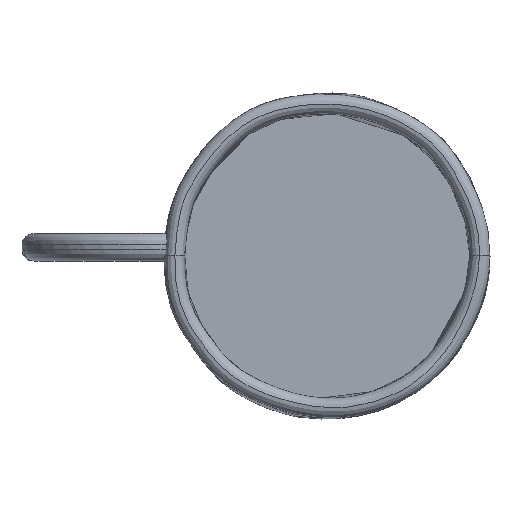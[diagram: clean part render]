
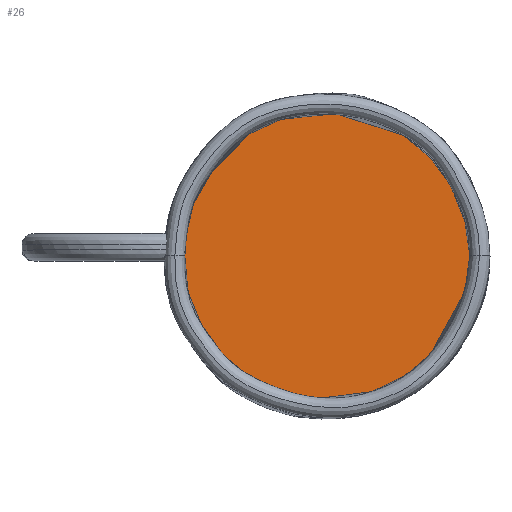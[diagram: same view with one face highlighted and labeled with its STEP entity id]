
A CAD part, top view. The second image highlights one B-rep face of the part: STEP entity #26.
In plain terms, the highlighted free-form (B-spline) face has degree [1, 1] with [2, 2] control points.
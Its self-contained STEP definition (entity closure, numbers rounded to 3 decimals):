
#26=ADVANCED_FACE('',(#53),#745,.T.);
#53=FACE_OUTER_BOUND('',#80,.T.);
#80=EDGE_LOOP('',(#119,#120));
#119=ORIENTED_EDGE('',*,*,#620,.T.);
#120=ORIENTED_EDGE('',*,*,#619,.F.);
#228=PCURVE('',#759,#338);
#229=PCURVE('',#745,#339);
#230=PCURVE('',#745,#340);
#233=PCURVE('',#760,#343);
#338=DEFINITIONAL_REPRESENTATION('',(#444),#10800);
#339=DEFINITIONAL_REPRESENTATION('',(#680),#10800);
#340=DEFINITIONAL_REPRESENTATION('',(#681),#10800);
#343=DEFINITIONAL_REPRESENTATION('',(#445),#10800);
#444=B_SPLINE_CURVE_WITH_KNOTS('',1,(#1008,#1009),.UNSPECIFIED.,.F.,.F.,
(2,2),(0.,94.799),.UNSPECIFIED.);
#445=B_SPLINE_CURVE_WITH_KNOTS('',1,(#1040,#1041),.UNSPECIFIED.,.F.,.F.,
(2,2),(-189.598,-94.799),.UNSPECIFIED.);
#564=SURFACE_CURVE('',#678,(#228,#230),.PCURVE_S1.);
#565=SURFACE_CURVE('',#679,(#229,#233),.PCURVE_S1.);
#619=EDGE_CURVE('',#712,#714,#564,.T.);
#620=EDGE_CURVE('',#712,#714,#565,.T.);
#678=(
BOUNDED_CURVE()
B_SPLINE_CURVE(2,(#1003,#1004,#1005,#1006,#1007),.UNSPECIFIED.,.F.,.F.)
B_SPLINE_CURVE_WITH_KNOTS((3,2,3),(0.,47.4,94.799),
 .UNSPECIFIED.)
CURVE()
GEOMETRIC_REPRESENTATION_ITEM()
RATIONAL_B_SPLINE_CURVE((1.,0.707,1.,0.707,1.))
REPRESENTATION_ITEM('')
);
#679=(
BOUNDED_CURVE()
B_SPLINE_CURVE(2,(#1010,#1011,#1012,#1013,#1014),.UNSPECIFIED.,.F.,.F.)
B_SPLINE_CURVE_WITH_KNOTS((3,2,3),(-189.598,-142.199,
-94.799),.UNSPECIFIED.)
CURVE()
GEOMETRIC_REPRESENTATION_ITEM()
RATIONAL_B_SPLINE_CURVE((1.,0.707,1.,0.707,1.))
REPRESENTATION_ITEM('')
);
#680=(
BOUNDED_CURVE()
B_SPLINE_CURVE(2,(#1015,#1016,#1017,#1018,#1019),.UNSPECIFIED.,.F.,.F.)
B_SPLINE_CURVE_WITH_KNOTS((3,2,3),(-189.598,-142.199,
-94.799),.UNSPECIFIED.)
CURVE()
GEOMETRIC_REPRESENTATION_ITEM()
RATIONAL_B_SPLINE_CURVE((1.,0.707,1.,0.707,1.))
REPRESENTATION_ITEM('')
);
#681=(
BOUNDED_CURVE()
B_SPLINE_CURVE(2,(#1020,#1021,#1022,#1023,#1024),.UNSPECIFIED.,.F.,.F.)
B_SPLINE_CURVE_WITH_KNOTS((3,2,3),(0.,47.4,94.799),
 .UNSPECIFIED.)
CURVE()
GEOMETRIC_REPRESENTATION_ITEM()
RATIONAL_B_SPLINE_CURVE((1.,0.707,1.,0.707,1.))
REPRESENTATION_ITEM('')
);
#712=VERTEX_POINT('',#984);
#714=VERTEX_POINT('',#986);
#745=B_SPLINE_SURFACE_WITH_KNOTS('',1,1,((#966,#967),(#968,#969)),
 .UNSPECIFIED.,.F.,.F.,.F.,(2,2),(2,2),(-37.719,37.719),
(-37.719,37.719),.UNSPECIFIED.);
#759=(
BOUNDED_SURFACE()
B_SPLINE_SURFACE(2,1,((#956,#957),(#958,#959),(#960,#961),(#962,#963),(#964,
#965)),.UNSPECIFIED.,.F.,.F.,.F.)
B_SPLINE_SURFACE_WITH_KNOTS((3,2,3),(2,2),(0.,47.4,94.799),
(0.,5.204),.UNSPECIFIED.)
GEOMETRIC_REPRESENTATION_ITEM()
RATIONAL_B_SPLINE_SURFACE(((1.,1.),(0.707,0.707),
(1.,1.),(0.707,0.707),(1.,1.)))
REPRESENTATION_ITEM('')
SURFACE()
);
#760=(
BOUNDED_SURFACE()
B_SPLINE_SURFACE(2,1,((#974,#975),(#976,#977),(#978,#979),(#980,#981),(#982,
#983)),.UNSPECIFIED.,.F.,.F.,.F.)
B_SPLINE_SURFACE_WITH_KNOTS((3,2,3),(2,2),(94.799,142.199,
189.598),(0.,5.204),.UNSPECIFIED.)
GEOMETRIC_REPRESENTATION_ITEM()
RATIONAL_B_SPLINE_SURFACE(((1.,1.),(0.707,0.707),
(1.,1.),(0.707,0.707),(1.,1.)))
REPRESENTATION_ITEM('')
SURFACE()
);
#956=CARTESIAN_POINT('',(17947.069,-392.673,9.835));
#957=CARTESIAN_POINT('',(17947.069,-392.673,4.703));
#958=CARTESIAN_POINT('',(17947.069,-353.964,9.835));
#959=CARTESIAN_POINT('',(17947.069,-353.964,4.703));
#960=CARTESIAN_POINT('',(17985.779,-353.964,9.835));
#961=CARTESIAN_POINT('',(17985.779,-353.964,4.703));
#962=CARTESIAN_POINT('',(18024.488,-353.964,9.835));
#963=CARTESIAN_POINT('',(18024.488,-353.964,4.703));
#964=CARTESIAN_POINT('',(18024.488,-392.673,9.835));
#965=CARTESIAN_POINT('',(18024.488,-392.673,4.703));
#966=CARTESIAN_POINT('',(18034.165,-441.059,9.835));
#967=CARTESIAN_POINT('',(17937.392,-441.059,9.835));
#968=CARTESIAN_POINT('',(18034.165,-344.287,9.835));
#969=CARTESIAN_POINT('',(17937.392,-344.287,9.835));
#974=CARTESIAN_POINT('',(18024.488,-392.673,9.835));
#975=CARTESIAN_POINT('',(18024.488,-392.673,4.703));
#976=CARTESIAN_POINT('',(18024.488,-431.382,9.835));
#977=CARTESIAN_POINT('',(18024.488,-431.382,4.703));
#978=CARTESIAN_POINT('',(17985.779,-431.382,9.835));
#979=CARTESIAN_POINT('',(17985.779,-431.382,4.703));
#980=CARTESIAN_POINT('',(17947.069,-431.382,9.835));
#981=CARTESIAN_POINT('',(17947.069,-431.382,4.703));
#982=CARTESIAN_POINT('',(17947.069,-392.673,9.835));
#983=CARTESIAN_POINT('',(17947.069,-392.673,4.703));
#984=CARTESIAN_POINT('',(17947.069,-392.673,9.835));
#986=CARTESIAN_POINT('',(18024.488,-392.673,9.835));
#1003=CARTESIAN_POINT('',(17947.069,-392.673,9.835));
#1004=CARTESIAN_POINT('',(17947.069,-353.964,9.835));
#1005=CARTESIAN_POINT('',(17985.779,-353.964,9.835));
#1006=CARTESIAN_POINT('',(18024.488,-353.964,9.835));
#1007=CARTESIAN_POINT('',(18024.488,-392.673,9.835));
#1008=CARTESIAN_POINT('',(0.,0.));
#1009=CARTESIAN_POINT('',(94.799,0.));
#1010=CARTESIAN_POINT('',(17947.069,-392.673,9.835));
#1011=CARTESIAN_POINT('',(17947.069,-431.382,9.835));
#1012=CARTESIAN_POINT('',(17985.779,-431.382,9.835));
#1013=CARTESIAN_POINT('',(18024.488,-431.382,9.835));
#1014=CARTESIAN_POINT('',(18024.488,-392.673,9.835));
#1015=CARTESIAN_POINT('',(0.,30.176));
#1016=CARTESIAN_POINT('',(-30.176,30.176));
#1017=CARTESIAN_POINT('',(-30.176,0.));
#1018=CARTESIAN_POINT('',(-30.176,-30.176));
#1019=CARTESIAN_POINT('',(0.,-30.176));
#1020=CARTESIAN_POINT('',(0.,30.176));
#1021=CARTESIAN_POINT('',(30.176,30.176));
#1022=CARTESIAN_POINT('',(30.176,0.));
#1023=CARTESIAN_POINT('',(30.176,-30.176));
#1024=CARTESIAN_POINT('',(0.,-30.176));
#1040=CARTESIAN_POINT('',(189.598,0.));
#1041=CARTESIAN_POINT('',(94.799,0.));
#10800=(
GEOMETRIC_REPRESENTATION_CONTEXT(2)
PARAMETRIC_REPRESENTATION_CONTEXT()
REPRESENTATION_CONTEXT('pspace','')
);
